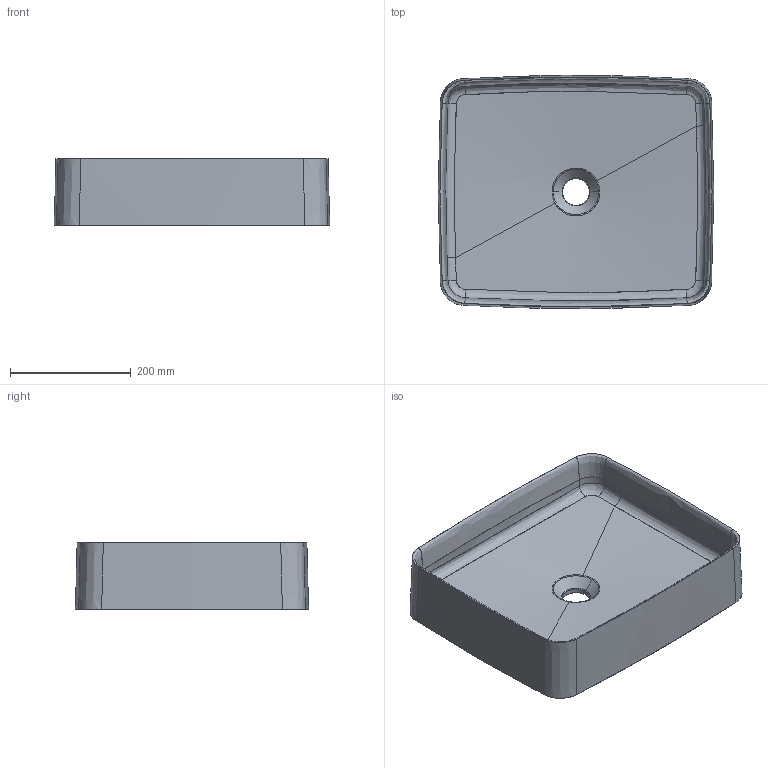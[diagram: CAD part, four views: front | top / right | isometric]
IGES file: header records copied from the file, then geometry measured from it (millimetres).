
Start section: START RECORD GO HERE.
Global section: file name: ART 7414 45 x38 quadro.igs; native system: DASSAULT SYSTEMES CATIA V5 R19 - www.3ds.com; preprocessor: CATIA Version 5 Release 19 SP 5 ; author: Luca; organization: DESKTOP-V7SON24; date: 20181015.135427; units: millimetre
Bounding box: 455.76 x 385.62 x 110 mm (x, y, z)
Surface area: 636961.9 mm2 (no closed solid volume)
Topology: 0 solids, 0 shells, 116 faces, 508 edges, 508 vertices
Faces by surface type: bspline 105, revolution 7, plane 4
